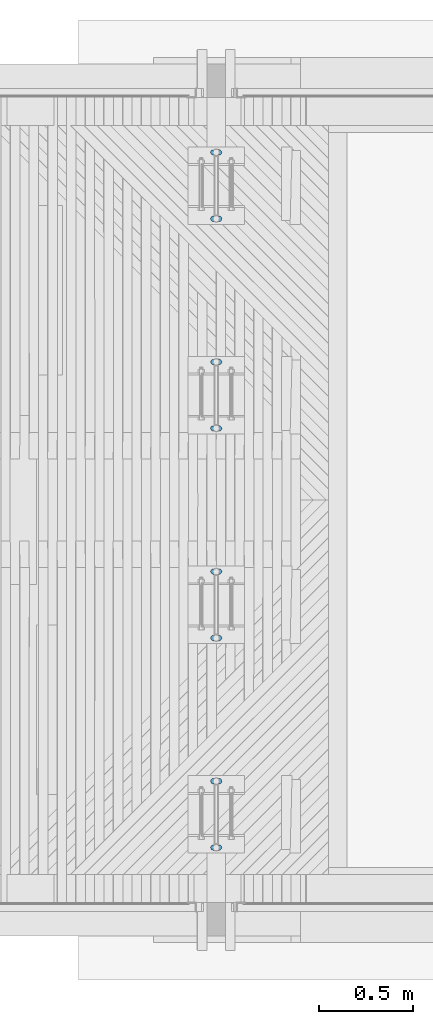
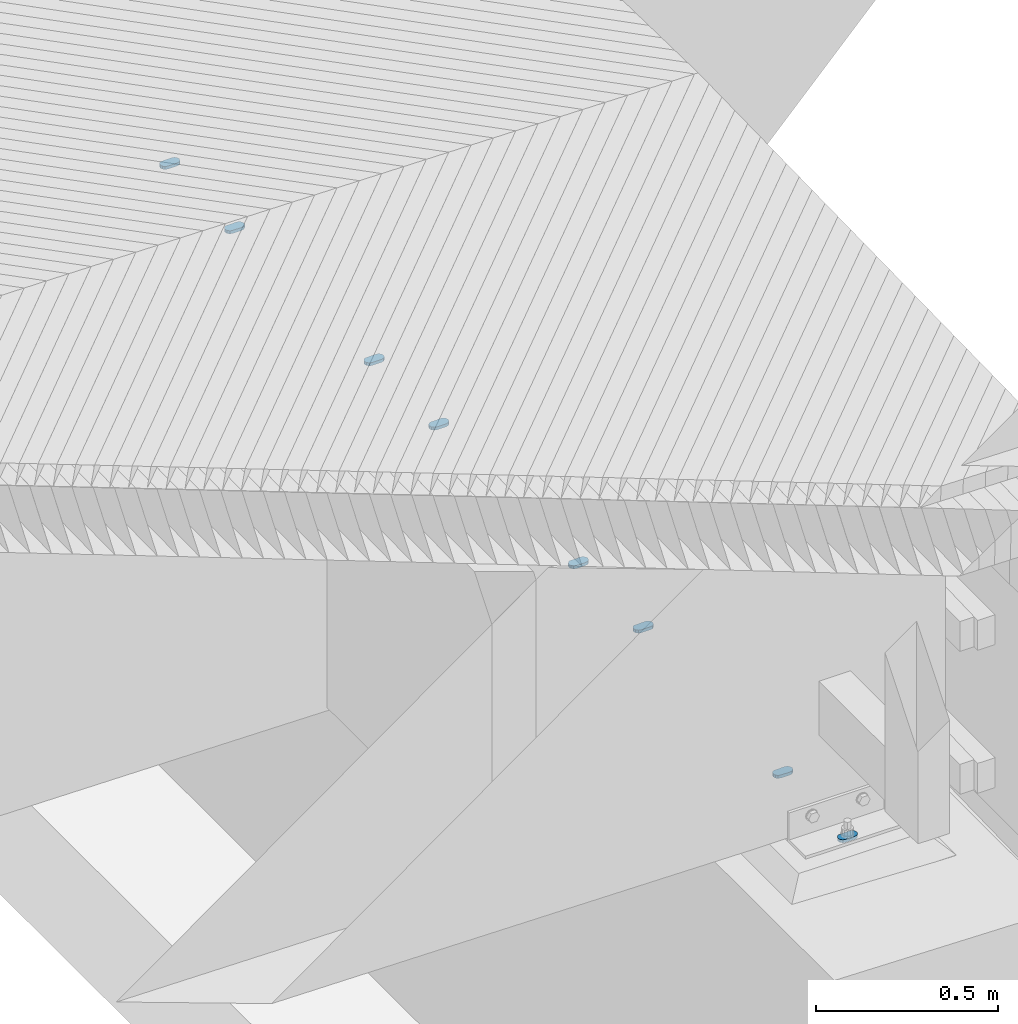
# One storey, part 6 of 65: 8 mechanical fasteners.
"""IFC2X3 building model written with IfcOpenShell, lengths in millimetres."""

import ifcopenshell
import ifcopenshell.guid

model = None  # the IFC model being written
_history = None  # IfcOwnerHistory: only IFC2X3 demands one
_inside = {}  # id of a spatial element -> (the spatial element, [elements in it])
_under = {}  # id of a project, library or spatial element -> (it, [spatial elements below it])
_declared = {}  # id of a project -> (the project, [libraries it declares])
_typed = {}  # id of a type object -> (the type object, [elements of that type])
_made_of = {}  # id of a material, layer set ... -> (it, [elements and type objects made of it])


def new_model(schema):
    """Start an empty IFC model of exactly this schema.

    Asked for "IFC4X3", IfcOpenShell would pick the latest addendum, in which some entities
    have other attributes; the version numbers below select the first issue.
    IFC2X3 requires an IfcOwnerHistory on every rooted entity: one is made here for all.
    """
    global model, _history
    if schema == "IFC4X3":
        model = ifcopenshell.file(schema_version=(4, 3, 0, 0))
    else:
        model = ifcopenshell.file(schema=schema)
    _inside.clear()
    _under.clear()
    _declared.clear()
    _typed.clear()
    _made_of.clear()
    _history = None
    if model.schema == "IFC2X3":
        org = make("IfcOrganization", Name="unknown")
        user = make(
            "IfcPersonAndOrganization",
            ThePerson=make("IfcPerson", FamilyName="unknown"),
            TheOrganization=org,
        )
        app = make(
            "IfcApplication",
            ApplicationDeveloper=org,
            Version="unknown",
            ApplicationFullName="unknown",
            ApplicationIdentifier="unknown",
        )
        _history = make(
            "IfcOwnerHistory",
            OwningUser=user,
            OwningApplication=app,
            ChangeAction="ADDED",
            CreationDate=0,
        )
    return model


def make(cls, **values):
    """One entity of the class cls with the attributes given. An attribute that is None is left unset."""
    return model.create_entity(
        cls, **{name: value for name, value in values.items() if value is not None}
    )


def rooted(cls, **values):
    """An entity with a GlobalId (a new one), such as an element, a storey or a relation."""
    return make(cls, GlobalId=ifcopenshell.guid.new(), OwnerHistory=_history, **values)


def si_unit(unit_type, name, prefix=None):
    """IfcSIUnit, for example si_unit("LENGTHUNIT", "METRE", prefix="MILLI")."""
    return make("IfcSIUnit", UnitType=unit_type, Prefix=prefix, Name=name)


def assignment(units):
    """IfcUnitAssignment: the units of a project."""
    return None if units is None else make("IfcUnitAssignment", Units=units)


def point(xyz):
    """IfcCartesianPoint."""
    return None if xyz is None else make("IfcCartesianPoint", Coordinates=xyz)


def direction(xyz):
    """IfcDirection."""
    return None if xyz is None else make("IfcDirection", DirectionRatios=xyz)


def frame(location, z_axis=None, x_axis=None):
    """IfcAxis2Placement3D, a coordinate frame: its origin and axes. An axis left out is left unset."""
    return make(
        "IfcAxis2Placement3D",
        Location=point(location),
        Axis=direction(z_axis),
        RefDirection=direction(x_axis),
    )


def origin_with_axes():
    """The frame at (0, 0, 0) with the z axis (0, 0, 1) and the x axis (1, 0, 0) written out."""
    return frame((0.0, 0.0, 0.0), z_axis=(0.0, 0.0, 1.0), x_axis=(1.0, 0.0, 0.0))


def place(relative_to, where):
    """IfcLocalPlacement: puts the frame where relative to a parent placement (None: the world)."""
    return make(
        "IfcLocalPlacement", PlacementRelTo=relative_to, RelativePlacement=where
    )


def context(
    kind, dimensions, precision=None, world=None, true_north=None, identifier=None
):
    """IfcGeometricRepresentationContext, for example the 3D "Model" context."""
    return make(
        "IfcGeometricRepresentationContext",
        ContextIdentifier=identifier,
        ContextType=kind,
        CoordinateSpaceDimension=dimensions,
        Precision=precision,
        WorldCoordinateSystem=world,
        TrueNorth=true_north,
    )


def subcontext(parent, identifier, kind, view, scale=None):
    """IfcGeometricRepresentationSubContext, for example "Body" below "Model"."""
    return make(
        "IfcGeometricRepresentationSubContext",
        ContextIdentifier=identifier,
        ContextType=kind,
        ParentContext=parent,
        TargetScale=scale,
        TargetView=view,
    )


def project(units=None, contexts=None):
    """IfcProject with its units and contexts."""
    return rooted(
        "IfcProject",
        Name="project",
        RepresentationContexts=contexts,
        UnitsInContext=assignment(units),
    )


def spatial(cls, under=None, at=None, **own):
    """A site, building, storey or space (cls), placed at a placement, below another one or the project."""
    s = rooted(cls, ObjectPlacement=at, **own)
    if under is not None:
        _under.setdefault(under.id(), (under, []))[1].append(s)
    return s


def faces_of(points, faces, orient=None, outer=None):
    """IfcFace entities. A face is a list of loops; a loop is a list of indices into points, from 0.

    orient and outer hold one flag for each loop. By default every Orientation is true, the
    first loop of a face is its IfcFaceOuterBound and the others are IfcFaceBound.
    """
    made = []
    for i, loops in enumerate(faces):
        bounds = []
        for j, loop in enumerate(loops):
            is_outer = j == 0 if outer is None else outer[i][j]
            bounds.append(
                make(
                    "IfcFaceOuterBound" if is_outer else "IfcFaceBound",
                    Bound=make("IfcPolyLoop", Polygon=[points[k] for k in loop]),
                    Orientation=True if orient is None else orient[i][j],
                )
            )
        made.append(make("IfcFace", Bounds=bounds))
    return made


def faceted_brep(points, faces, orient=None, outer=None, voids=None):
    """IfcFacetedBrep: a solid bounded by flat faces; with voids (closed shells), ...WithVoids."""
    shared = [point(p) for p in points]
    hull = make("IfcClosedShell", CfsFaces=faces_of(shared, faces, orient, outer))
    if voids is None:
        return make("IfcFacetedBrep", Outer=hull)
    return make(
        "IfcFacetedBrepWithVoids",
        Outer=hull,
        Voids=[
            make(cls, CfsFaces=faces_of(shared, fs, o, b)) for cls, fs, o, b in voids
        ],
    )


def shape(context_of_items, identifier, shape_type, items):
    """IfcShapeRepresentation: the items that make up one representation, for example the "Body"."""
    return make(
        "IfcShapeRepresentation",
        ContextOfItems=context_of_items,
        RepresentationIdentifier=identifier,
        RepresentationType=shape_type,
        Items=items,
    )


def source(mapping_origin, context_of_items, identifier, shape_type, items):
    """IfcRepresentationMap: a shape defined once, which mapped items show again and again."""
    return make(
        "IfcRepresentationMap",
        MappingOrigin=mapping_origin,
        MappedRepresentation=shape(context_of_items, identifier, shape_type, items),
    )


def transform(
    local_origin,
    x_axis=None,
    y_axis=None,
    z_axis=None,
    scale=None,
    scale2=None,
    scale3=None,
    uniform=True,
):
    """IfcCartesianTransformationOperator3D, or its non-uniform kind. x_axis, y_axis, z_axis: its Axis1, 2, 3."""
    if uniform:
        return make(
            "IfcCartesianTransformationOperator3D",
            Axis1=direction(x_axis),
            Axis2=direction(y_axis),
            LocalOrigin=point(local_origin),
            Scale=scale,
            Axis3=direction(z_axis),
        )
    return make(
        "IfcCartesianTransformationOperator3DnonUniform",
        Axis1=direction(x_axis),
        Axis2=direction(y_axis),
        LocalOrigin=point(local_origin),
        Scale=scale,
        Axis3=direction(z_axis),
        Scale2=scale2,
        Scale3=scale3,
    )


def mapped(mapping_source, mapping_target):
    """IfcMappedItem: shows the shape of a source again, moved by a transform."""
    return make(
        "IfcMappedItem", MappingSource=mapping_source, MappingTarget=mapping_target
    )


def material(Name=None, Category=None):
    """IfcMaterial."""
    return make("IfcMaterial", Name=Name, Category=Category)


def made_of(thing, what):
    """Note that an element or type object is made of a material, layer set ...; save() writes the relation."""
    if what is not None:
        _made_of.setdefault(what.id(), (what, []))[1].append(thing)
    return thing


def type_object(cls, material=None, **own):
    """A type object (cls), such as IfcWallType, which elements share."""
    return made_of(rooted(cls, **own), material)


def element(
    cls,
    number,
    at=None,
    inside=None,
    cuts=None,
    type_object=None,
    material=None,
    context=None,
    identifier="Body",
    shape_type=None,
    held_by="IfcProductDefinitionShape",
    body=None,
    shapes=None,
    **own,
):
    """One element of the class cls, such as IfcWall. Its Tag is "e" and its number.

    at: its placement. inside: the storey or other place that contains it. cuts: it is an
    opening in that element (IfcRelVoidsElement). A single representation is given by context,
    identifier, shape_type and body (its items); several are given by shapes. held_by: the class
    of the entity that holds the representations. save() writes the other relations.
    """
    e = rooted(cls, Tag="e%d" % number, ObjectPlacement=at, **own)
    if body is not None:
        shapes = [shape(context, identifier, shape_type, body)]
    if shapes is not None:
        e.Representation = make(held_by, Representations=shapes)
    if inside is not None:
        _inside.setdefault(inside.id(), (inside, []))[1].append(e)
    if cuts is not None:
        rooted(
            "IfcRelVoidsElement", RelatingBuildingElement=cuts, RelatedOpeningElement=e
        )
    if type_object is not None:
        _typed.setdefault(type_object.id(), (type_object, []))[1].append(e)
    return made_of(e, material)


def aggregate(whole, parts):
    """IfcRelAggregates: a whole, such as a stair, and the parts it consists of."""
    return rooted("IfcRelAggregates", RelatingObject=whole, RelatedObjects=parts)


def save(model, path):
    """Write the relations noted so far, then the file.

    IfcRelAggregates (storeys below a building ...), IfcRelContainedInSpatialStructure (elements
    in a storey), IfcRelDefinesByType, IfcRelAssociatesMaterial and IfcRelDeclares: one each for
    every whole, place, type object, material and project.
    """
    for whole, parts in _under.values():
        aggregate(whole, parts)
    for where, things in _inside.values():
        rooted(
            "IfcRelContainedInSpatialStructure",
            RelatedElements=things,
            RelatingStructure=where,
        )
    for kind, things in _typed.values():
        rooted("IfcRelDefinesByType", RelatedObjects=things, RelatingType=kind)
    for what, things in _made_of.values():
        rooted("IfcRelAssociatesMaterial", RelatedObjects=things, RelatingMaterial=what)
    for by, libraries in _declared.values():
        rooted("IfcRelDeclares", RelatingContext=by, RelatedDefinitions=libraries)
    model.write(path)


model = new_model("IFC2X3")

# Units and contexts
model_context = context("Model", 3, precision=1e-05, world=origin_with_axes())
body_context = subcontext(model_context, "Body", "Model", "MODEL_VIEW")
ifc_project = project(units=[si_unit("LENGTHUNIT", "METRE", prefix="MILLI"), si_unit("AREAUNIT", "SQUARE_METRE"), si_unit("VOLUMEUNIT", "CUBIC_METRE"), si_unit("MASSUNIT", "GRAM", prefix="KILO"), si_unit("TIMEUNIT", "SECOND"), si_unit("PLANEANGLEUNIT", "RADIAN"), si_unit("SOLIDANGLEUNIT", "STERADIAN"), si_unit("THERMODYNAMICTEMPERATUREUNIT", "DEGREE_CELSIUS"), si_unit("LUMINOUSINTENSITYUNIT", "LUMEN")], contexts=[model_context])

# Site, building, storey
site_placement = place(None, origin_with_axes())
site = spatial("IfcSite", under=ifc_project, at=site_placement, Name="Undefined", CompositionType="ELEMENT")
building_placement = place(site_placement, origin_with_axes())
building = spatial("IfcBuilding", under=site, at=building_placement, Name="Undefined", CompositionType="ELEMENT")
storey_placement = place(building_placement, origin_with_axes())
storey = spatial("IfcBuildingStorey", under=building, at=storey_placement, Name="Undefined", CompositionType="ELEMENT", Elevation=0.0)

# Mechanical fasteners
ifc_material = material(Name="Undefined")
mechanical_fastener_type = type_object("IfcMechanicalFastenerType", Name="Bolt assembly")
shared_shape = source(origin_with_axes(), body_context, "Body", "Brep", [
    faceted_brep([(30.0, -9.99999999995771, 0.0), (28.8581929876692, -9.99999999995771, 5.7402514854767), (25.6066017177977, -9.99999999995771, 10.6066017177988), (20.7402514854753, -9.99999999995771, 13.8581929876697), (-15.0000000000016, -9.99999999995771, 15.0), (-22.5000000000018, -9.99999999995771, 12.9903810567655), (-27.9903810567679, -9.99999999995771, 7.49999999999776), (-30.0, -9.99999999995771, -3.10900794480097e-12), (-27.9903810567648, -9.99999999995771, -7.50000000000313), (-22.4999999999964, -9.99999999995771, -12.9903810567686), (-14.9999999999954, -9.99999999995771, -15.0), (15.0000000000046, -9.99999999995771, -15.0), (22.5000000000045, -9.99999999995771, -12.990381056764), (27.9903810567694, -9.99999999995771, -7.49999999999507), (30.0, 0.100000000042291, 0.0), (27.9903810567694, 0.100000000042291, -7.49999999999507), (22.5000000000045, 0.100000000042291, -12.990381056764), (15.0000000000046, 0.100000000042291, -15.0), (-14.9999999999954, 0.100000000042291, -15.0), (-22.4999999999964, 0.100000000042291, -12.9903810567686), (-27.9903810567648, 0.100000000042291, -7.50000000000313), (-30.0, 0.100000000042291, -3.10900794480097e-12), (-27.9903810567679, 0.100000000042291, 7.49999999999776), (-22.5000000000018, 0.100000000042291, 12.9903810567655), (-15.0000000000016, 0.100000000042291, 15.0), (20.7402514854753, 0.100000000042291, 13.8581929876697), (25.6066017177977, 0.100000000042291, 10.6066017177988), (28.8581929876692, 0.100000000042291, 5.7402514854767)], [[[0, 1, 2, 3, 4, 5, 6, 7, 8, 9, 10, 11, 12, 13]], [[14, 15, 16, 17, 18, 19, 20, 21, 22, 23, 24, 25, 26, 27]], [[0, 14, 27, 1]], [[1, 27, 26, 2]], [[2, 26, 25, 3]], [[3, 25, 24, 4]], [[4, 24, 23, 5]], [[5, 23, 22, 6]], [[6, 22, 21, 7]], [[7, 21, 20, 8]], [[8, 20, 19, 9]], [[9, 19, 18, 10]], [[10, 18, 17, 11]], [[11, 17, 16, 12]], [[12, 16, 15, 13]], [[13, 15, 14, 0]]]),
])
for number, where, z_axis, x_axis, name in (
    (1, (16000.0, 22747.5000000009, 2007.32999999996), (0.0, 1.0, 0.0), (-1.0, 0.0, 0.0), "Bolt assembly"),
    (2, (16000.0, 23102.5000000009, 2007.32999999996), (0.0, 1.0, 0.0), (-1.0, 0.0, 0.0), "Bolt assembly"),
    (3, (16000.0, 23867.5000000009, 1985.32999999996), (0.0, 1.0, 0.0), (-1.0, 0.0, 0.0), "Bolt assembly"),
    (4, (16000.0, 24222.5000000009, 1985.32999999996), (0.0, 1.0, 0.0), (-1.0, 0.0, 0.0), "Bolt assembly"),
    (5, (16000.0, 21982.5, 2007.32999999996), (0.0, 1.0, 0.0), (-1.0, 0.0, 0.0), "Bolt assembly"),
    (6, (16000.0, 21627.5, 2007.32999999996), (0.0, 1.0, 0.0), (-1.0, 0.0, 0.0), "Bolt assembly"),
    (7, (16000.0, 20862.5, 1985.32999999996), (0.0, 1.0, 0.0), (-1.0, 0.0, 0.0), "Bolt assembly"),
    (8, (16000.0, 20507.5, 1985.32999999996), (0.0, 1.0, 0.0), (-1.0, 0.0, 0.0), "Bolt assembly"),
):
    element("IfcMechanicalFastener", number, at=place(storey_placement, frame(where, z_axis=z_axis, x_axis=x_axis)), inside=storey, type_object=mechanical_fastener_type, material=ifc_material, Name=name, NominalDiameter=20.0, NominalLength=30.0, context=body_context, shape_type="MappedRepresentation", body=[
        mapped(shared_shape, transform((0.0, 0.0, 0.0))),
    ])

save(model, "model.ifc")
